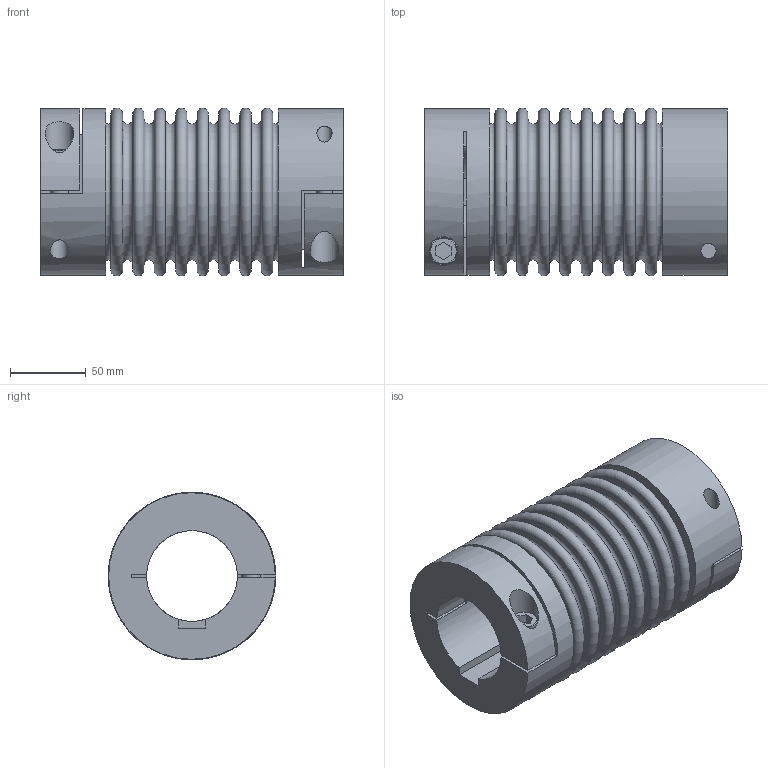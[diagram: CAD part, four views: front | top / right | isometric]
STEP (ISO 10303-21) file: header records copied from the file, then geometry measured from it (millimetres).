
FILE_DESCRIPTION(/* description */ ('STEP AP214'),/* implementation_level */ '2;1');
FILE_NAME(/* name */ 'C:\Diequa Files\DieQua Coupling\Website Step Files\BC.300.200.#.#.stp',/* time_stamp */ '2018-10-25T16:20:59-05:00',/* author */ ('DiequaCAD'),/* organization */ (''),/* preprocessor_version */ 'ST-DEVELOPER v17.2',/* originating_system */ 'Autodesk Inventor 2019',/* authorisation */ ' ');
FILE_SCHEMA (('AUTOMOTIVE_DESIGN { 1 0 10303 214 3 1 1 }'));
Length unit declared in the file: millimetre
Products named in the file (1): BC2.300.200.#.#
Bounding box: 200 x 110.9 x 110.9 mm (x, y, z)
Volume: 561108.8 mm3; surface area: 240013.1 mm2
Topology: 1 solids, 1 shells, 129 faces, 326 edges, 239 vertices
Faces by surface type: plane 78, torus 36, cylinder 14, cone 1
Full cylindrical faces by diameter (mm): 10 x2, 12 x2, 18 x2, 19 x2, 110 x2
Entity records: 4293 total; most frequent: CARTESIAN_POINT 845, DIRECTION 789, ORIENTED_EDGE 652, AXIS2_PLACEMENT_3D 339, EDGE_CURVE 326, VERTEX_POINT 239, CIRCLE 209, EDGE_LOOP 177
